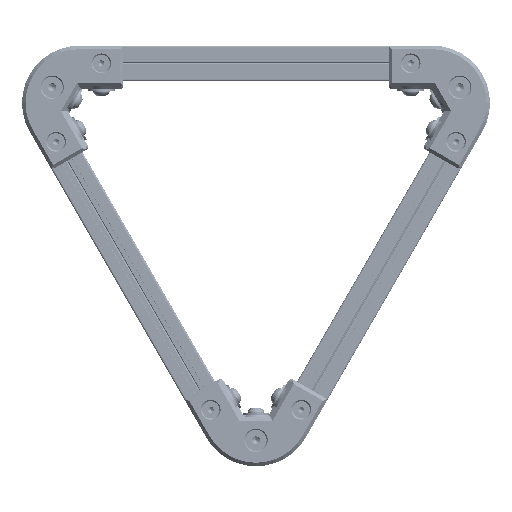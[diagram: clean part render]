
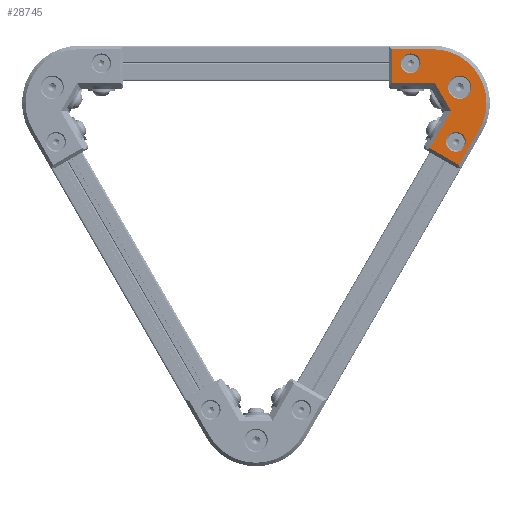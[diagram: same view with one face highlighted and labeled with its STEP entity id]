
A CAD part, front view. The second image highlights one B-rep face of the part: STEP entity #28745.
In plain terms, the highlighted planar face has unit normal (0, -1, 0) as drawn and (0, 1, 0) by its records, which use the part's own axes.
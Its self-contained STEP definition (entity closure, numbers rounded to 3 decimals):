
#170 = CARTESIAN_POINT ( 'NONE',  ( 73.168, 54.259, 12.926 ) ) ;
#994 = AXIS2_PLACEMENT_3D ( 'NONE', #1332, #19461, #37210 ) ;
#1332 = CARTESIAN_POINT ( 'NONE',  ( 46.861, 54.259, -2.262 ) ) ;
#1496 = LINE ( 'NONE', #10460, #32825 ) ;
#1575 = PLANE ( 'NONE',  #12575 ) ;
#2378 = DIRECTION ( 'NONE',  ( 0., -1., 0. ) ) ;
#3025 = ORIENTED_EDGE ( 'NONE', *, *, #7034, .T. ) ;
#3598 = ORIENTED_EDGE ( 'NONE', *, *, #24162, .T. ) ;
#4041 = VERTEX_POINT ( 'NONE', #26650 ) ;
#4193 = EDGE_CURVE ( 'NONE', #28393, #28242, #1496, .T. ) ;
#4282 = EDGE_LOOP ( 'NONE', ( #10470, #25450 ) ) ;
#4492 = VECTOR ( 'NONE', #32701, 1000. ) ;
#5609 = DIRECTION ( 'NONE',  ( 0.5, 0., 0.866 ) ) ;
#5631 = DIRECTION ( 'NONE',  ( 0., -1., 0. ) ) ;
#5864 = ORIENTED_EDGE ( 'NONE', *, *, #36650, .T. ) ;
#6040 = ORIENTED_EDGE ( 'NONE', *, *, #36885, .T. ) ;
#6054 = CARTESIAN_POINT ( 'NONE',  ( 9.054, 54.259, -6.992 ) ) ;
#6824 = CIRCLE ( 'NONE', #994, 30.377 ) ;
#7034 = EDGE_CURVE ( 'NONE', #34871, #34669, #26594, .T. ) ;
#7231 = FACE_BOUND ( 'NONE', #10713, .T. ) ;
#8235 = EDGE_CURVE ( 'NONE', #35868, #22029, #15354, .T. ) ;
#8732 = AXIS2_PLACEMENT_3D ( 'NONE', #18269, #12402, #25115 ) ;
#8741 = DIRECTION ( 'NONE',  ( 0., 0., 1. ) ) ;
#9030 = EDGE_CURVE ( 'NONE', #38417, #14021, #6824, .T. ) ;
#9299 = EDGE_CURVE ( 'NONE', #30997, #28393, #12212, .T. ) ;
#9506 = EDGE_CURVE ( 'NONE', #28242, #25966, #10266, .T. ) ;
#9581 = CARTESIAN_POINT ( 'NONE',  ( 46.861, 54.259, 8.785 ) ) ;
#9696 = ORIENTED_EDGE ( 'NONE', *, *, #26946, .T. ) ;
#9841 = CARTESIAN_POINT ( 'NONE',  ( 72.49, 54.259, -1.899 ) ) ;
#10033 = DIRECTION ( 'NONE',  ( 0., 0., 1. ) ) ;
#10266 = LINE ( 'NONE', #24899, #38116 ) ;
#10331 = DIRECTION ( 'NONE',  ( 0., 0., 1. ) ) ;
#10460 = CARTESIAN_POINT ( 'NONE',  ( 56.737, 54.259, 3.385 ) ) ;
#10470 = ORIENTED_EDGE ( 'NONE', *, *, #38361, .T. ) ;
#10585 = CIRCLE ( 'NONE', #16183, 6.6 ) ;
#10713 = EDGE_LOOP ( 'NONE', ( #26702, #3025 ) ) ;
#10849 = LINE ( 'NONE', #37753, #32403 ) ;
#10938 = LINE ( 'NONE', #28459, #29401 ) ;
#11049 = DIRECTION ( 'NONE',  ( 0., -1., 0. ) ) ;
#11415 = VERTEX_POINT ( 'NONE', #36512 ) ;
#11627 = VERTEX_POINT ( 'NONE', #6054 ) ;
#11919 = CARTESIAN_POINT ( 'NONE',  ( 20.554, 54.259, 12.926 ) ) ;
#12212 = LINE ( 'NONE', #15135, #4492 ) ;
#12402 = DIRECTION ( 'NONE',  ( 0., -1., 0. ) ) ;
#12575 = AXIS2_PLACEMENT_3D ( 'NONE', #37247, #19113, #30999 ) ;
#13625 = FACE_BOUND ( 'NONE', #4282, .T. ) ;
#13668 = CARTESIAN_POINT ( 'NONE',  ( 72.49, 54.259, -1.899 ) ) ;
#14021 = VERTEX_POINT ( 'NONE', #170 ) ;
#14861 = CARTESIAN_POINT ( 'NONE',  ( 72.49, 54.259, -7.499 ) ) ;
#14944 = CARTESIAN_POINT ( 'NONE',  ( 37.562, 54.259, 4.385 ) ) ;
#15135 = CARTESIAN_POINT ( 'NONE',  ( 66.482, 54.259, -17.492 ) ) ;
#15354 = CIRCLE ( 'NONE', #18511, 5.6 ) ;
#15430 = ORIENTED_EDGE ( 'NONE', *, *, #9506, .T. ) ;
#16087 = DIRECTION ( 'NONE',  ( -1., 0., 0. ) ) ;
#16183 = AXIS2_PLACEMENT_3D ( 'NONE', #30204, #25169, #10331 ) ;
#17256 = CARTESIAN_POINT ( 'NONE',  ( 21.232, 54.259, -1.899 ) ) ;
#18269 = CARTESIAN_POINT ( 'NONE',  ( 21.232, 54.259, -1.899 ) ) ;
#18511 = AXIS2_PLACEMENT_3D ( 'NONE', #9841, #24282, #10033 ) ;
#18809 = ORIENTED_EDGE ( 'NONE', *, *, #35295, .T. ) ;
#18900 = EDGE_CURVE ( 'NONE', #34669, #34871, #10585, .T. ) ;
#19113 = DIRECTION ( 'NONE',  ( 0., 1., 0. ) ) ;
#19461 = DIRECTION ( 'NONE',  ( 0., 1., 0. ) ) ;
#19979 = CARTESIAN_POINT ( 'NONE',  ( 25.509, 54.259, -16.492 ) ) ;
#20088 = CARTESIAN_POINT ( 'NONE',  ( 72.49, 54.259, 3.701 ) ) ;
#20447 = CARTESIAN_POINT ( 'NONE',  ( 46.861, 54.259, 15.385 ) ) ;
#21780 = DIRECTION ( 'NONE',  ( -0.5, 0., -0.866 ) ) ;
#21822 = DIRECTION ( 'NONE',  ( 0.5, 0., -0.866 ) ) ;
#21948 = CIRCLE ( 'NONE', #25694, 5.6 ) ;
#21985 = EDGE_CURVE ( 'NONE', #31775, #11627, #10938, .T. ) ;
#22029 = VERTEX_POINT ( 'NONE', #20088 ) ;
#22253 = FACE_BOUND ( 'NONE', #29944, .T. ) ;
#22281 = AXIS2_PLACEMENT_3D ( 'NONE', #20447, #5631, #8741 ) ;
#22296 = CARTESIAN_POINT ( 'NONE',  ( 68.214, 54.259, -16.492 ) ) ;
#22448 = DIRECTION ( 'NONE',  ( -0.866, 0., 0.5 ) ) ;
#23410 = ORIENTED_EDGE ( 'NONE', *, *, #9299, .T. ) ;
#24162 = EDGE_CURVE ( 'NONE', #25966, #31775, #24723, .T. ) ;
#24282 = DIRECTION ( 'NONE',  ( 0., -1., 0. ) ) ;
#24303 = CIRCLE ( 'NONE', #26257, 5.6 ) ;
#24594 = VECTOR ( 'NONE', #21780, 1000. ) ;
#24723 = LINE ( 'NONE', #30144, #24594 ) ;
#24899 = CARTESIAN_POINT ( 'NONE',  ( 38.717, 54.259, 4.385 ) ) ;
#25115 = DIRECTION ( 'NONE',  ( 0., 0., 1. ) ) ;
#25129 = ORIENTED_EDGE ( 'NONE', *, *, #21985, .T. ) ;
#25169 = DIRECTION ( 'NONE',  ( 0., -1., 0. ) ) ;
#25450 = ORIENTED_EDGE ( 'NONE', *, *, #8235, .T. ) ;
#25612 = DIRECTION ( 'NONE',  ( 0., 0., 1. ) ) ;
#25694 = AXIS2_PLACEMENT_3D ( 'NONE', #13668, #2378, #25612 ) ;
#25966 = VERTEX_POINT ( 'NONE', #14944 ) ;
#26257 = AXIS2_PLACEMENT_3D ( 'NONE', #17256, #11049, #32086 ) ;
#26594 = CIRCLE ( 'NONE', #22281, 6.6 ) ;
#26650 = CARTESIAN_POINT ( 'NONE',  ( 21.232, 54.259, 3.701 ) ) ;
#26656 = CARTESIAN_POINT ( 'NONE',  ( 20.554, 54.259, 12.926 ) ) ;
#26694 = CARTESIAN_POINT ( 'NONE',  ( 84.668, 54.259, -6.992 ) ) ;
#26702 = ORIENTED_EDGE ( 'NONE', *, *, #18900, .T. ) ;
#26946 = EDGE_CURVE ( 'NONE', #11627, #38417, #29950, .T. ) ;
#26959 = CARTESIAN_POINT ( 'NONE',  ( 56.16, 54.259, 4.385 ) ) ;
#28071 = FACE_OUTER_BOUND ( 'NONE', #36799, .T. ) ;
#28211 = ORIENTED_EDGE ( 'NONE', *, *, #9030, .T. ) ;
#28242 = VERTEX_POINT ( 'NONE', #26959 ) ;
#28393 = VERTEX_POINT ( 'NONE', #22296 ) ;
#28459 = CARTESIAN_POINT ( 'NONE',  ( -0.764, 54.259, -1.324 ) ) ;
#28745 = ADVANCED_FACE ( 'NONE', ( #7231, #13625, #22253, #28071 ), #1575, .T. ) ;
#29401 = VECTOR ( 'NONE', #22448, 1000. ) ;
#29944 = EDGE_LOOP ( 'NONE', ( #5864, #6040 ) ) ;
#29950 = LINE ( 'NONE', #26656, #33665 ) ;
#30144 = CARTESIAN_POINT ( 'NONE',  ( 26.273, 54.259, -15.169 ) ) ;
#30204 = CARTESIAN_POINT ( 'NONE',  ( 46.861, 54.259, 15.385 ) ) ;
#30997 = VERTEX_POINT ( 'NONE', #26694 ) ;
#30999 = DIRECTION ( 'NONE',  ( 1., 0., 0. ) ) ;
#31775 = VERTEX_POINT ( 'NONE', #19979 ) ;
#32086 = DIRECTION ( 'NONE',  ( 0., 0., 1. ) ) ;
#32367 = CARTESIAN_POINT ( 'NONE',  ( 46.861, 54.259, 21.985 ) ) ;
#32403 = VECTOR ( 'NONE', #21822, 1000. ) ;
#32701 = DIRECTION ( 'NONE',  ( -0.866, 0., -0.5 ) ) ;
#32825 = VECTOR ( 'NONE', #34238, 1000. ) ;
#33665 = VECTOR ( 'NONE', #5609, 1000. ) ;
#34238 = DIRECTION ( 'NONE',  ( -0.5, 0., 0.866 ) ) ;
#34669 = VERTEX_POINT ( 'NONE', #32367 ) ;
#34871 = VERTEX_POINT ( 'NONE', #9581 ) ;
#35295 = EDGE_CURVE ( 'NONE', #14021, #30997, #10849, .T. ) ;
#35868 = VERTEX_POINT ( 'NONE', #14861 ) ;
#36512 = CARTESIAN_POINT ( 'NONE',  ( 21.232, 54.259, -7.499 ) ) ;
#36650 = EDGE_CURVE ( 'NONE', #4041, #11415, #37999, .T. ) ;
#36799 = EDGE_LOOP ( 'NONE', ( #3598, #25129, #9696, #28211, #18809, #23410, #37626, #15430 ) ) ;
#36885 = EDGE_CURVE ( 'NONE', #11415, #4041, #24303, .T. ) ;
#37210 = DIRECTION ( 'NONE',  ( 0., 0., 1. ) ) ;
#37247 = CARTESIAN_POINT ( 'NONE',  ( 0., 54.259, 0. ) ) ;
#37626 = ORIENTED_EDGE ( 'NONE', *, *, #4193, .T. ) ;
#37753 = CARTESIAN_POINT ( 'NONE',  ( 60.473, 54.259, 34.914 ) ) ;
#37999 = CIRCLE ( 'NONE', #8732, 5.6 ) ;
#38116 = VECTOR ( 'NONE', #16087, 1000. ) ;
#38361 = EDGE_CURVE ( 'NONE', #22029, #35868, #21948, .T. ) ;
#38417 = VERTEX_POINT ( 'NONE', #11919 ) ;
